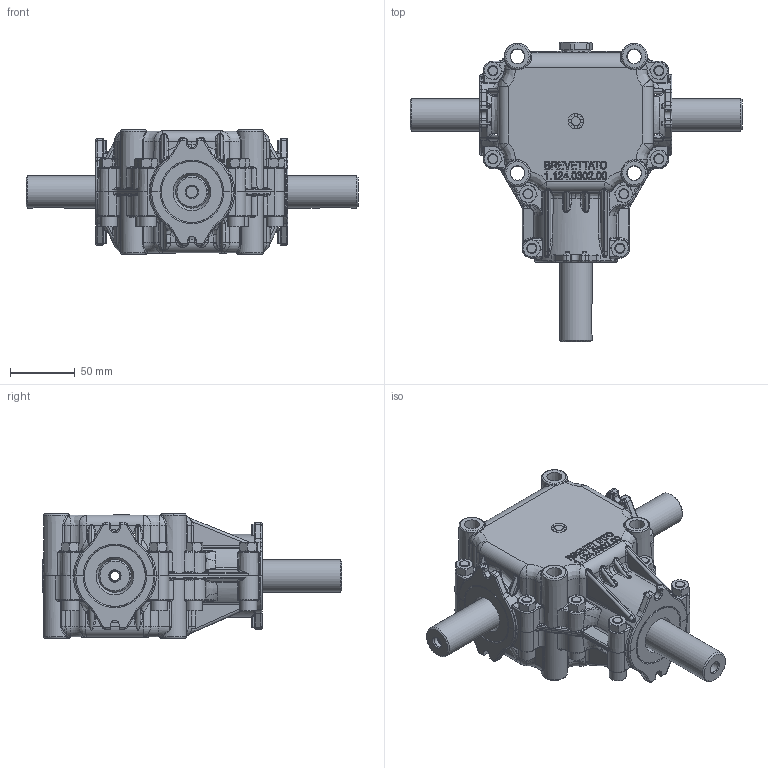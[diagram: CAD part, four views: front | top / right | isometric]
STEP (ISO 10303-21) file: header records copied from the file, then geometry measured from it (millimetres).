
FILE_DESCRIPTION(/* description */ (''),/* implementation_level */ '2;1');
FILE_NAME(/* name */ '9-124-006-30ugm000_01.stp',/* time_stamp */ '2025-07-21T10:23:11+02:00',/* author */ (''),/* organization */ (''),/* preprocessor_version */ 'ST-DEVELOPER v16',/* originating_system */ 'SIEMENS PLM Software NX 11.0',/* authorisation */ '');
FILE_SCHEMA (('AUTOMOTIVE_DESIGN { 1 0 10303 214 3 1 1 1 }'));
Length unit declared in the file: millimetre
Products named in the file (1): Se_S1798250Drirs
Bounding box: 256 x 231 x 95.91 mm (x, y, z)
Surface area: 137938.8 mm2 (no closed solid volume)
Topology: 0 solids, 88 shells, 1652 faces, 6109 edges, 4332 vertices
Faces by surface type: plane 497, bspline 495, cylinder 418, torus 151, cone 56, sphere 18, extrusion 17
Full cylindrical faces by diameter (mm): 6.985 x2, 7 x1, 8.4 x2, 9 x1, 11 x4, 12 x1, 13 x8, 25 x3, 47 x3
Entity records: 78892 total; most frequent: CARTESIAN_POINT 35082, ORIENTED_EDGE 9199, DIRECTION 7074, EDGE_CURVE 5918, VERTEX_POINT 4293, AXIS2_PLACEMENT_3D 2537, B_SPLINE_CURVE_WITH_KNOTS 2012, VECTOR 2000
